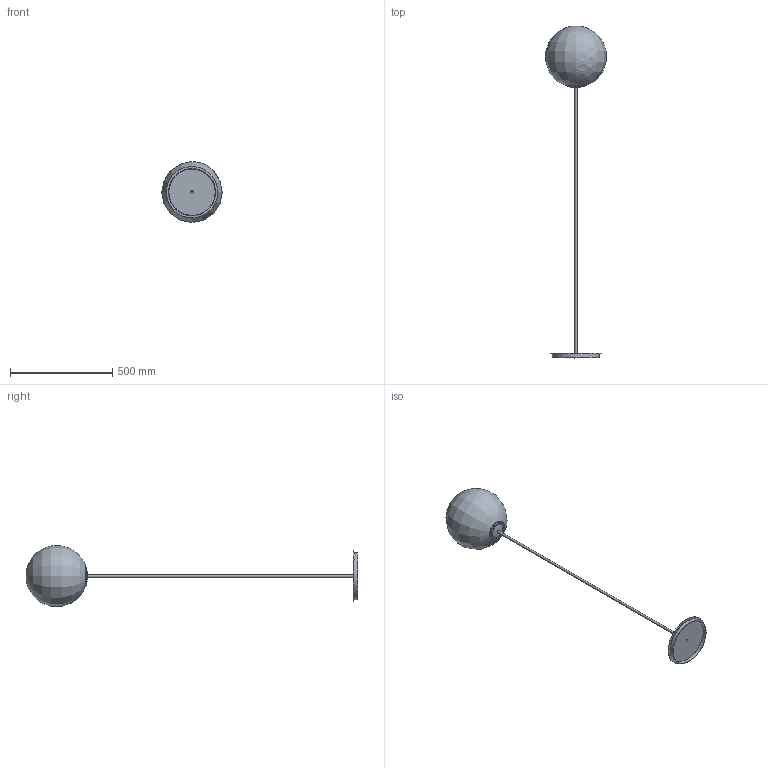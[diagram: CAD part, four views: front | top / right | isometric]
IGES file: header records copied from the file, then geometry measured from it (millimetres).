
Global section: file name: PARMA-H3946180-3D; native system: AutoCAD 2022 - Español (Spanish),; preprocessor: Autodesk Translation Framework DWG producer (atf_dwg_producer); organization: unknown; date: 20221221.102528; units: millimetre
Bounding box: 295.93 x 1622.24 x 297.87 mm (x, y, z)
Volume: 934408.7 mm3; surface area: 829160.2 mm2
Topology: 9 solids, 9 shells, 115 faces, 250 edges, 149 vertices
Faces by surface type: bspline 115
